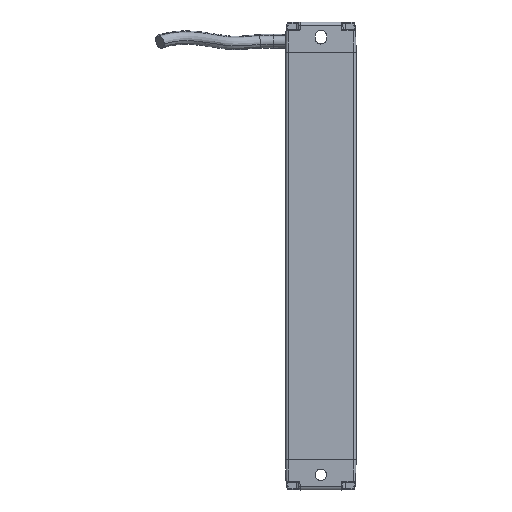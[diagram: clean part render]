
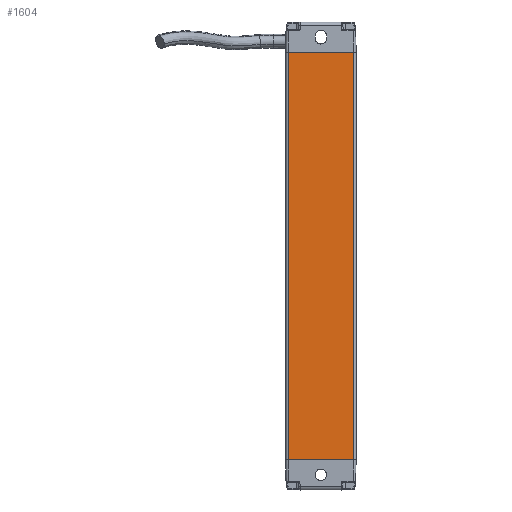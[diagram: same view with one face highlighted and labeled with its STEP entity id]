
A CAD part, front view. The second image highlights one B-rep face of the part: STEP entity #1604.
In plain terms, the highlighted planar face has unit normal (-0.001, -1, 0).
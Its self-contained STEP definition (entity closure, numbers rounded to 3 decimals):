
#1604=ADVANCED_FACE('',(#2720),#2349,.T.);
#2349=PLANE('',#14604);
#2720=FACE_OUTER_BOUND('',#3441,.T.);
#3441=EDGE_LOOP('',(#4477,#4478,#4479,#4480));
#4477=ORIENTED_EDGE('',*,*,#10104,.T.);
#4478=ORIENTED_EDGE('',*,*,#10057,.F.);
#4479=ORIENTED_EDGE('',*,*,#10102,.T.);
#4480=ORIENTED_EDGE('',*,*,#10105,.T.);
#8601=VERTEX_POINT('',#19845);
#8602=VERTEX_POINT('',#19847);
#8639=VERTEX_POINT('',#19936);
#8640=VERTEX_POINT('',#19940);
#10057=EDGE_CURVE('',#8601,#8602,#12174,.T.);
#10102=EDGE_CURVE('',#8601,#8639,#12205,.T.);
#10104=EDGE_CURVE('',#8640,#8602,#12206,.T.);
#10105=EDGE_CURVE('',#8639,#8640,#12207,.T.);
#12174=LINE('',#19846,#13389);
#12205=LINE('',#19935,#13420);
#12206=LINE('',#19939,#13421);
#12207=LINE('',#19941,#13422);
#13389=VECTOR('',#16033,1.);
#13420=VECTOR('',#16106,1.);
#13421=VECTOR('',#16111,1.);
#13422=VECTOR('',#16112,1.);
#14604=AXIS2_PLACEMENT_3D('',#19942,#16113,#16114);
#16033=DIRECTION('',(1.,-0.001,0.));
#16106=DIRECTION('',(0.,0.,-1.));
#16111=DIRECTION('',(0.,0.,1.));
#16112=DIRECTION('',(1.,-0.001,0.));
#16113=DIRECTION('',(-0.001,-1.,0.));
#16114=DIRECTION('',(1.,-0.001,0.));
#19845=CARTESIAN_POINT('',(53.048,-142.376,360.376));
#19846=CARTESIAN_POINT('',(79.028,-142.395,360.376));
#19847=CARTESIAN_POINT('',(79.028,-142.395,360.376));
#19935=CARTESIAN_POINT('',(53.048,-142.376,543.376));
#19936=CARTESIAN_POINT('',(53.048,-142.376,198.376));
#19939=CARTESIAN_POINT('',(79.028,-142.395,198.376));
#19940=CARTESIAN_POINT('',(79.028,-142.395,198.376));
#19941=CARTESIAN_POINT('',(53.048,-142.376,198.376));
#19942=CARTESIAN_POINT('',(79.028,-142.395,543.376));
